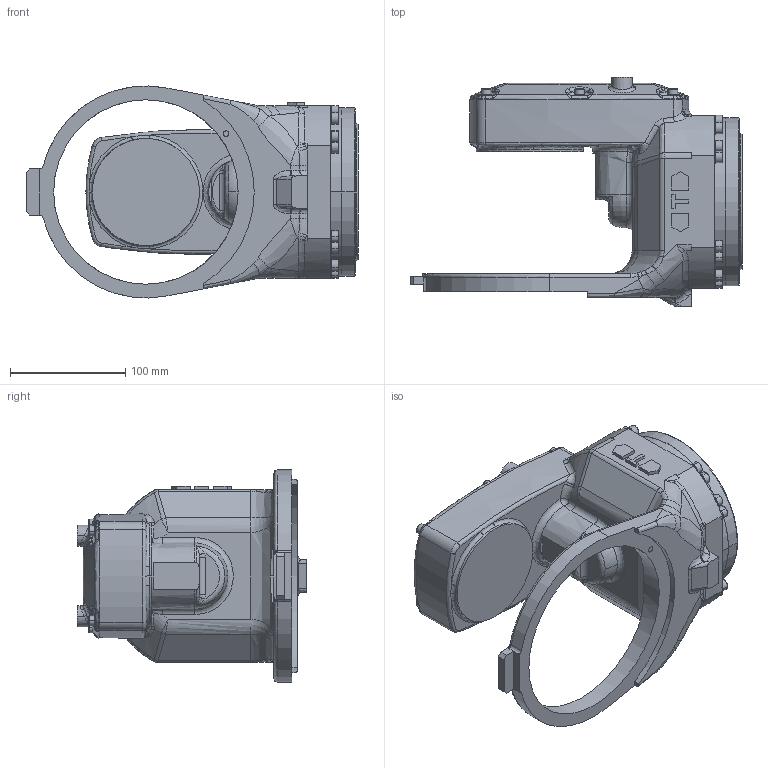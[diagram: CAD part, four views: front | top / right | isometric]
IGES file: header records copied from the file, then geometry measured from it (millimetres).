
Start section:  PTC IGES file: b_axis_gp110_sw1.igs
Global section: file name: b_axis_gp110_sw1.igs; native system: Creo Parametric by Parametric Technology Corporation; preprocessor: 2015030; author: robo228; organization: Unknown; date: 20171226.145605; units: millimetre
Bounding box: 288 x 199 x 183.96 mm (x, y, z)
Volume: 2951224.6 mm3; surface area: 174406.9 mm2
Topology: 1 solids, 2 shells, 612 faces, 1463 edges, 891 vertices
Faces by surface type: bspline 322, revolution 290
